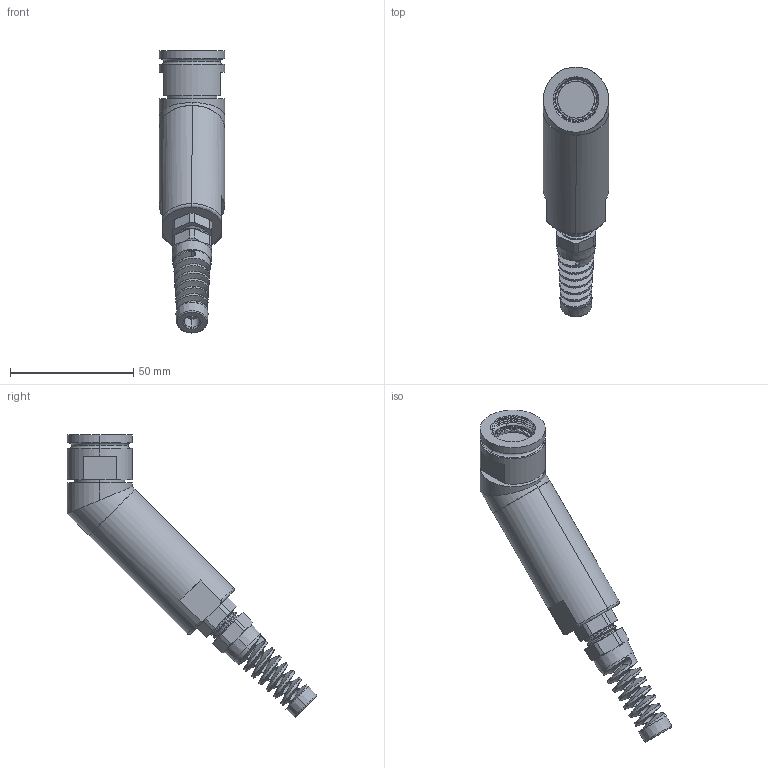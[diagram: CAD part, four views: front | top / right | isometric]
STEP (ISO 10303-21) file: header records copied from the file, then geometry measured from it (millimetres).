
FILE_DESCRIPTION (( 'STEP AP214' ), '1' );
FILE_NAME ('Q38SHELL-45X-13-XXXX-GB.STEP', '2025-09-25T20:47:23', ( '' ), ( '' ), 'SwSTEP 2.0', 'SolidWorks 2024', '' );
FILE_SCHEMA (( 'AUTOMOTIVE_DESIGN' ));
Length unit declared in the file: millimetre
Products named in the file (1): Q38SHELL-45X-13-XXXX-GB
Bounding box: 26.42 x 101.02 x 114.19 mm (x, y, z)
Volume: 52239.5 mm3; surface area: 14903.6 mm2
Topology: 2 solids, 2 shells, 250 faces, 795 edges, 563 vertices
Faces by surface type: plane 120, cylinder 72, cone 38, torus 13, bspline 7
Entity records: 12612 total; most frequent: CARTESIAN_POINT 6045, ORIENTED_EDGE 1590, DIRECTION 1161, EDGE_CURVE 795, VERTEX_POINT 563, AXIS2_PLACEMENT_3D 474, EDGE_LOOP 268, B_SPLINE_CURVE_WITH_KNOTS 255
